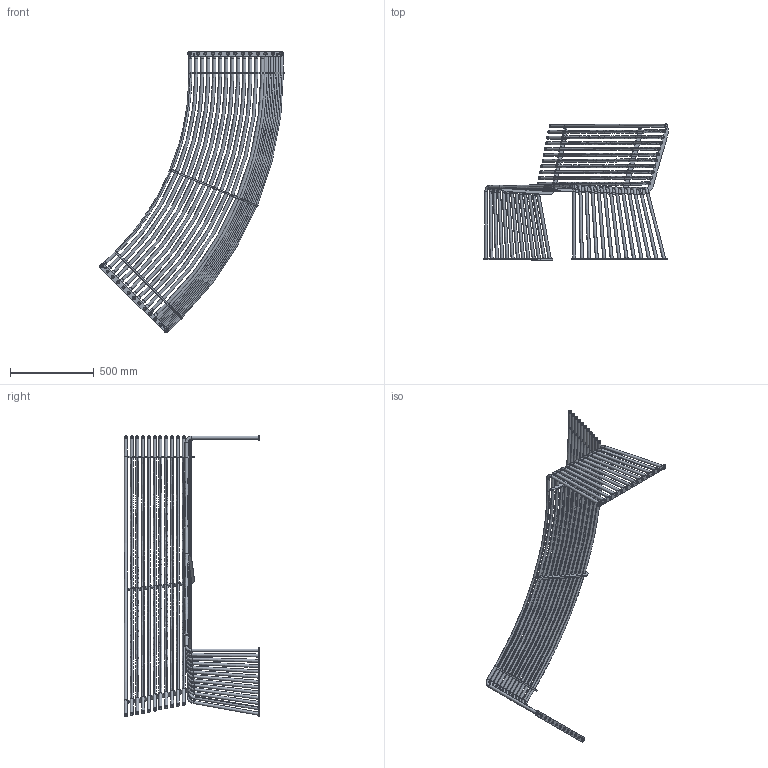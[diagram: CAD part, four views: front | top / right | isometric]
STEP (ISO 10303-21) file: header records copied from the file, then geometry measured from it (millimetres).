
FILE_DESCRIPTION(('STEP AP203'),'1');
FILE_NAME('Panchina 015 inox con schienale concava.step','2018-01-09T15:19:36',(' '),(' '),'Spatial InterOp 3D',' ',' ');
FILE_SCHEMA(('CONFIG_CONTROL_DESIGN'));
Length unit declared in the file: millimetre
Products named in the file (1): 1
Bounding box: 1103.69 x 810.87 x 1685.85 mm (x, y, z)
Volume: 4747777.2 mm3; surface area: 5631316.5 mm2
Topology: 53 solids, 53 shells, 1067 faces, 2654 edges, 1697 vertices
Faces by surface type: cylinder 472, bspline 272, plane 188, cone 48, torus 38, extrusion 25, sphere 24
Full cylindrical faces by diameter (mm): 6 x6, 9 x4, 14.9 x24, 15 x70, 15.3 x24, 18 x94, 18.3 x10
Entity records: 295404 total; most frequent: CARTESIAN_POINT 273121, ORIENTED_EDGE 4438, DIRECTION 4192, EDGE_CURVE 2219, AXIS2_PLACEMENT_3D 1903, VERTEX_POINT 1604, EDGE_LOOP 1533, FACE_OUTER_BOUND 1341
